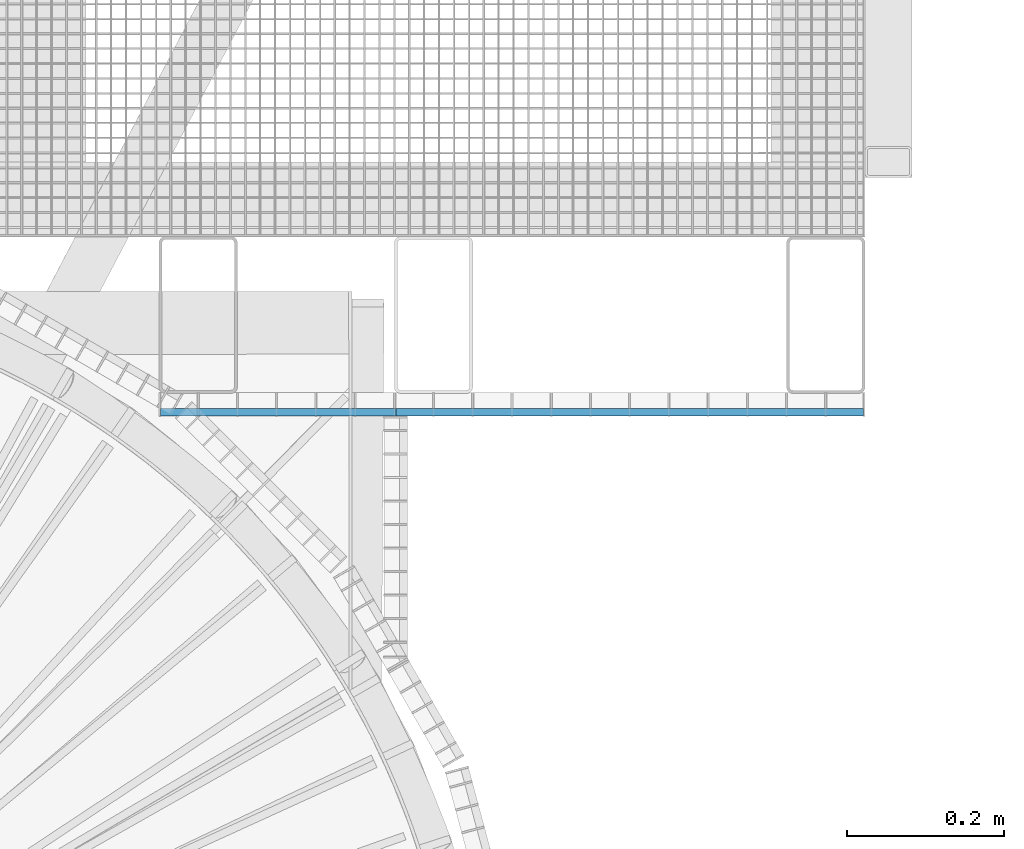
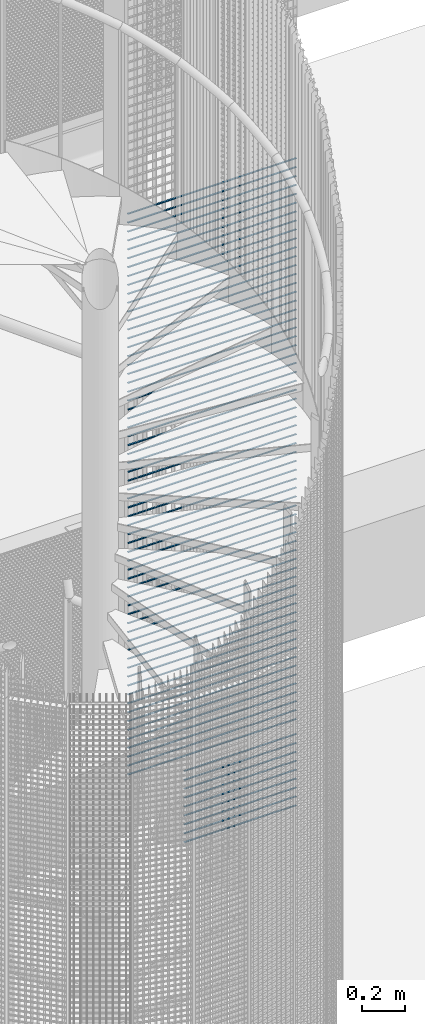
# One storey, part 293 of 1148: 73 beams, 2 elements without a shape of their own.
"""IFC2X3 building model written with IfcOpenShell, lengths in millimetres."""

from ifc_helpers import new_model, si_unit, frame, origin_with_axes, origin_2d_with_axis, place, context, subcontext, project, spatial, rectangle, extrude, material, type_object, element, aggregate, save


model = new_model("IFC2X3")

# Units and contexts
model_context = context("Model", 3, precision=1e-05, world=origin_with_axes())
body_context = subcontext(model_context, "Body", "Model", "MODEL_VIEW")
ifc_project = project(units=[si_unit("LENGTHUNIT", "METRE", prefix="MILLI"), si_unit("AREAUNIT", "SQUARE_METRE"), si_unit("VOLUMEUNIT", "CUBIC_METRE"), si_unit("MASSUNIT", "GRAM", prefix="KILO"), si_unit("TIMEUNIT", "SECOND"), si_unit("PLANEANGLEUNIT", "RADIAN"), si_unit("SOLIDANGLEUNIT", "STERADIAN"), si_unit("THERMODYNAMICTEMPERATUREUNIT", "DEGREE_CELSIUS"), si_unit("LUMINOUSINTENSITYUNIT", "LUMEN")], contexts=[model_context])

# Site, building, storey
site_placement = place(None, origin_with_axes())
site = spatial("IfcSite", under=ifc_project, at=site_placement, Name="Undefined", CompositionType="ELEMENT")
building_placement = place(site_placement, origin_with_axes())
building = spatial("IfcBuilding", under=site, at=building_placement, Name="Undefined", CompositionType="ELEMENT")
storey_placement = place(building_placement, origin_with_axes())
storey = spatial("IfcBuildingStorey", under=building, at=storey_placement, Name="Undefined", CompositionType="ELEMENT", Elevation=0.0)

# Assembly, beams
assembly_1_placement = place(storey_placement, origin_with_axes())
assembly_1 = element("IfcElementAssembly", 1, at=assembly_1_placement, inside=storey, Name="BORDURE", AssemblyPlace="NOTDEFINED", PredefinedType="NOTDEFINED")
ifc_material = material(Name="STEEL/S235JR")
beam_type = type_object("IfcBeamType", Name="PL2*10", PredefinedType="NOTDEFINED")
beam_1_placement = place(assembly_1_placement, frame((652.069589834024, 876.014689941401, 13239.998), z_axis=(0.0, -1.0, 0.0), x_axis=(1.0, 0.0, 0.0)))
beam_1 = element("IfcBeam", 2, at=beam_1_placement, type_object=beam_type, material=ifc_material, Name="ENTRETOISE", context=body_context, shape_type="SweptSolid", body=[
    extrude(rectangle(XDim=2.0, YDim=10.0, at=origin_2d_with_axis()), frame((896.0, 0.0, 0.0), z_axis=(-1.0, 0.0, 0.0), x_axis=(0.0, -1.0, 0.0)), (0.0, 0.0, 1.0), 896.0),
])
beam_2_placement = place(assembly_1_placement, frame((652.069589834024, 876.014689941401, 13189.998), z_axis=(0.0, -1.0, 0.0), x_axis=(1.0, 0.0, 0.0)))
beam_2 = element("IfcBeam", 3, at=beam_2_placement, type_object=beam_type, material=ifc_material, Name="ENTRETOISE", context=body_context, shape_type="SweptSolid", body=[
    extrude(rectangle(XDim=2.0, YDim=10.0, at=origin_2d_with_axis()), frame((896.0, 0.0, 0.0), z_axis=(-1.0, 0.0, 0.0), x_axis=(0.0, -1.0, 0.0)), (0.0, 0.0, 1.0), 896.0),
])
beam_3_placement = place(assembly_1_placement, frame((652.069589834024, 876.014689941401, 13139.998), z_axis=(0.0, -1.0, 0.0), x_axis=(1.0, 0.0, 0.0)))
beam_3 = element("IfcBeam", 4, at=beam_3_placement, type_object=beam_type, material=ifc_material, Name="ENTRETOISE", context=body_context, shape_type="SweptSolid", body=[
    extrude(rectangle(XDim=2.0, YDim=10.0, at=origin_2d_with_axis()), frame((896.0, 0.0, 0.0), z_axis=(-1.0, 0.0, 0.0), x_axis=(0.0, -1.0, 0.0)), (0.0, 0.0, 1.0), 896.0),
])
beam_4_placement = place(assembly_1_placement, frame((652.069589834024, 876.014689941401, 13089.998), z_axis=(0.0, -1.0, 0.0), x_axis=(1.0, 0.0, 0.0)))
beam_4 = element("IfcBeam", 5, at=beam_4_placement, type_object=beam_type, material=ifc_material, Name="ENTRETOISE", context=body_context, shape_type="SweptSolid", body=[
    extrude(rectangle(XDim=2.0, YDim=10.0, at=origin_2d_with_axis()), frame((896.0, 0.0, 0.0), z_axis=(-1.0, 0.0, 0.0), x_axis=(0.0, -1.0, 0.0)), (0.0, 0.0, 1.0), 896.0),
])
beam_5_placement = place(assembly_1_placement, frame((652.069589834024, 876.014689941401, 13039.998), z_axis=(0.0, -1.0, 0.0), x_axis=(1.0, 0.0, 0.0)))
beam_5 = element("IfcBeam", 6, at=beam_5_placement, type_object=beam_type, material=ifc_material, Name="ENTRETOISE", context=body_context, shape_type="SweptSolid", body=[
    extrude(rectangle(XDim=2.0, YDim=10.0, at=origin_2d_with_axis()), frame((896.0, 0.0, 0.0), z_axis=(-1.0, 0.0, 0.0), x_axis=(0.0, -1.0, 0.0)), (0.0, 0.0, 1.0), 896.0),
])
beam_6_placement = place(assembly_1_placement, frame((652.069589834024, 876.014689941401, 12989.998), z_axis=(0.0, -1.0, 0.0), x_axis=(1.0, 0.0, 0.0)))
beam_6 = element("IfcBeam", 7, at=beam_6_placement, type_object=beam_type, material=ifc_material, Name="ENTRETOISE", context=body_context, shape_type="SweptSolid", body=[
    extrude(rectangle(XDim=2.0, YDim=10.0, at=origin_2d_with_axis()), frame((896.0, 0.0, 0.0), z_axis=(-1.0, 0.0, 0.0), x_axis=(0.0, -1.0, 0.0)), (0.0, 0.0, 1.0), 896.0),
])
beam_7_placement = place(assembly_1_placement, frame((652.069589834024, 876.014689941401, 12939.998), z_axis=(0.0, -1.0, 0.0), x_axis=(1.0, 0.0, 0.0)))
beam_7 = element("IfcBeam", 8, at=beam_7_placement, type_object=beam_type, material=ifc_material, Name="ENTRETOISE", context=body_context, shape_type="SweptSolid", body=[
    extrude(rectangle(XDim=2.0, YDim=10.0, at=origin_2d_with_axis()), frame((896.0, 0.0, 0.0), z_axis=(-1.0, 0.0, 0.0), x_axis=(0.0, -1.0, 0.0)), (0.0, 0.0, 1.0), 896.0),
])
beam_8_placement = place(assembly_1_placement, frame((652.069589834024, 876.014689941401, 12889.998), z_axis=(0.0, -1.0, 0.0), x_axis=(1.0, 0.0, 0.0)))
beam_8 = element("IfcBeam", 9, at=beam_8_placement, type_object=beam_type, material=ifc_material, Name="ENTRETOISE", context=body_context, shape_type="SweptSolid", body=[
    extrude(rectangle(XDim=2.0, YDim=10.0, at=origin_2d_with_axis()), frame((896.0, 0.0, 0.0), z_axis=(-1.0, 0.0, 0.0), x_axis=(0.0, -1.0, 0.0)), (0.0, 0.0, 1.0), 896.0),
])
beam_9_placement = place(assembly_1_placement, frame((652.069589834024, 876.014689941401, 12839.998), z_axis=(0.0, -1.0, 0.0), x_axis=(1.0, 0.0, 0.0)))
beam_9 = element("IfcBeam", 10, at=beam_9_placement, type_object=beam_type, material=ifc_material, Name="ENTRETOISE", context=body_context, shape_type="SweptSolid", body=[
    extrude(rectangle(XDim=2.0, YDim=10.0, at=origin_2d_with_axis()), frame((896.0, 0.0, 0.0), z_axis=(-1.0, 0.0, 0.0), x_axis=(0.0, -1.0, 0.0)), (0.0, 0.0, 1.0), 896.0),
])
beam_10_placement = place(assembly_1_placement, frame((652.069589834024, 876.014689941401, 12789.998), z_axis=(0.0, -1.0, 0.0), x_axis=(1.0, 0.0, 0.0)))
beam_10 = element("IfcBeam", 11, at=beam_10_placement, type_object=beam_type, material=ifc_material, Name="ENTRETOISE", context=body_context, shape_type="SweptSolid", body=[
    extrude(rectangle(XDim=2.0, YDim=10.0, at=origin_2d_with_axis()), frame((896.0, 0.0, 0.0), z_axis=(-1.0, 0.0, 0.0), x_axis=(0.0, -1.0, 0.0)), (0.0, 0.0, 1.0), 896.0),
])
beam_11_placement = place(assembly_1_placement, frame((652.069589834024, 876.014689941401, 12739.998), z_axis=(0.0, -1.0, 0.0), x_axis=(1.0, 0.0, 0.0)))
beam_11 = element("IfcBeam", 12, at=beam_11_placement, type_object=beam_type, material=ifc_material, Name="ENTRETOISE", context=body_context, shape_type="SweptSolid", body=[
    extrude(rectangle(XDim=2.0, YDim=10.0, at=origin_2d_with_axis()), frame((896.0, 0.0, 0.0), z_axis=(-1.0, 0.0, 0.0), x_axis=(0.0, -1.0, 0.0)), (0.0, 0.0, 1.0), 896.0),
])
beam_12_placement = place(assembly_1_placement, frame((652.069589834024, 876.014689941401, 12689.998), z_axis=(0.0, -1.0, 0.0), x_axis=(1.0, 0.0, 0.0)))
beam_12 = element("IfcBeam", 13, at=beam_12_placement, type_object=beam_type, material=ifc_material, Name="ENTRETOISE", context=body_context, shape_type="SweptSolid", body=[
    extrude(rectangle(XDim=2.0, YDim=10.0, at=origin_2d_with_axis()), frame((896.0, 0.0, 0.0), z_axis=(-1.0, 0.0, 0.0), x_axis=(0.0, -1.0, 0.0)), (0.0, 0.0, 1.0), 896.0),
])
beam_13_placement = place(assembly_1_placement, frame((652.069589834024, 876.014689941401, 12639.998), z_axis=(0.0, -1.0, 0.0), x_axis=(1.0, 0.0, 0.0)))
beam_13 = element("IfcBeam", 14, at=beam_13_placement, type_object=beam_type, material=ifc_material, Name="ENTRETOISE", context=body_context, shape_type="SweptSolid", body=[
    extrude(rectangle(XDim=2.0, YDim=10.0, at=origin_2d_with_axis()), frame((896.0, 0.0, 0.0), z_axis=(-1.0, 0.0, 0.0), x_axis=(0.0, -1.0, 0.0)), (0.0, 0.0, 1.0), 896.0),
])
beam_14_placement = place(assembly_1_placement, frame((652.069589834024, 876.014689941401, 12589.998), z_axis=(0.0, -1.0, 0.0), x_axis=(1.0, 0.0, 0.0)))
beam_14 = element("IfcBeam", 15, at=beam_14_placement, type_object=beam_type, material=ifc_material, Name="ENTRETOISE", context=body_context, shape_type="SweptSolid", body=[
    extrude(rectangle(XDim=2.0, YDim=10.0, at=origin_2d_with_axis()), frame((896.0, 0.0, 0.0), z_axis=(-1.0, 0.0, 0.0), x_axis=(0.0, -1.0, 0.0)), (0.0, 0.0, 1.0), 896.0),
])
beam_15_placement = place(assembly_1_placement, frame((652.069589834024, 876.014689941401, 12539.998), z_axis=(0.0, -1.0, 0.0), x_axis=(1.0, 0.0, 0.0)))
beam_15 = element("IfcBeam", 16, at=beam_15_placement, type_object=beam_type, material=ifc_material, Name="ENTRETOISE", context=body_context, shape_type="SweptSolid", body=[
    extrude(rectangle(XDim=2.0, YDim=10.0, at=origin_2d_with_axis()), frame((896.0, 0.0, 0.0), z_axis=(-1.0, 0.0, 0.0), x_axis=(0.0, -1.0, 0.0)), (0.0, 0.0, 1.0), 896.0),
])
beam_16_placement = place(assembly_1_placement, frame((652.069589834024, 876.014689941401, 12489.998), z_axis=(0.0, -1.0, 0.0), x_axis=(1.0, 0.0, 0.0)))
beam_16 = element("IfcBeam", 17, at=beam_16_placement, type_object=beam_type, material=ifc_material, Name="ENTRETOISE", context=body_context, shape_type="SweptSolid", body=[
    extrude(rectangle(XDim=2.0, YDim=10.0, at=origin_2d_with_axis()), frame((896.0, 0.0, 0.0), z_axis=(-1.0, 0.0, 0.0), x_axis=(0.0, -1.0, 0.0)), (0.0, 0.0, 1.0), 896.0),
])
beam_17_placement = place(assembly_1_placement, frame((652.069589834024, 876.014689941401, 12439.998), z_axis=(0.0, -1.0, 0.0), x_axis=(1.0, 0.0, 0.0)))
beam_17 = element("IfcBeam", 18, at=beam_17_placement, type_object=beam_type, material=ifc_material, Name="ENTRETOISE", context=body_context, shape_type="SweptSolid", body=[
    extrude(rectangle(XDim=2.0, YDim=10.0, at=origin_2d_with_axis()), frame((896.0, 0.0, 0.0), z_axis=(-1.0, 0.0, 0.0), x_axis=(0.0, -1.0, 0.0)), (0.0, 0.0, 1.0), 896.0),
])
beam_18_placement = place(assembly_1_placement, frame((652.069589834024, 876.014689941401, 12389.998), z_axis=(0.0, -1.0, 0.0), x_axis=(1.0, 0.0, 0.0)))
beam_18 = element("IfcBeam", 19, at=beam_18_placement, type_object=beam_type, material=ifc_material, Name="ENTRETOISE", context=body_context, shape_type="SweptSolid", body=[
    extrude(rectangle(XDim=2.0, YDim=10.0, at=origin_2d_with_axis()), frame((896.0, 0.0, 0.0), z_axis=(-1.0, 0.0, 0.0), x_axis=(0.0, -1.0, 0.0)), (0.0, 0.0, 1.0), 896.0),
])
beam_19_placement = place(assembly_1_placement, frame((652.069589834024, 876.014689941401, 12339.998), z_axis=(0.0, -1.0, 0.0), x_axis=(1.0, 0.0, 0.0)))
beam_19 = element("IfcBeam", 20, at=beam_19_placement, type_object=beam_type, material=ifc_material, Name="ENTRETOISE", context=body_context, shape_type="SweptSolid", body=[
    extrude(rectangle(XDim=2.0, YDim=10.0, at=origin_2d_with_axis()), frame((896.0, 0.0, 0.0), z_axis=(-1.0, 0.0, 0.0), x_axis=(0.0, -1.0, 0.0)), (0.0, 0.0, 1.0), 896.0),
])
beam_20_placement = place(assembly_1_placement, frame((652.069589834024, 876.014689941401, 12289.998), z_axis=(0.0, -1.0, 0.0), x_axis=(1.0, 0.0, 0.0)))
beam_20 = element("IfcBeam", 21, at=beam_20_placement, type_object=beam_type, material=ifc_material, Name="ENTRETOISE", context=body_context, shape_type="SweptSolid", body=[
    extrude(rectangle(XDim=2.0, YDim=10.0, at=origin_2d_with_axis()), frame((896.0, 0.0, 0.0), z_axis=(-1.0, 0.0, 0.0), x_axis=(0.0, -1.0, 0.0)), (0.0, 0.0, 1.0), 896.0),
])
beam_21_placement = place(assembly_1_placement, frame((652.069589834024, 876.014689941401, 12239.998), z_axis=(0.0, -1.0, 0.0), x_axis=(1.0, 0.0, 0.0)))
beam_21 = element("IfcBeam", 22, at=beam_21_placement, type_object=beam_type, material=ifc_material, Name="ENTRETOISE", context=body_context, shape_type="SweptSolid", body=[
    extrude(rectangle(XDim=2.0, YDim=10.0, at=origin_2d_with_axis()), frame((896.0, 0.0, 0.0), z_axis=(-1.0, 0.0, 0.0), x_axis=(0.0, -1.0, 0.0)), (0.0, 0.0, 1.0), 896.0),
])
beam_22_placement = place(assembly_1_placement, frame((652.069589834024, 876.014689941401, 12189.998), z_axis=(0.0, -1.0, 0.0), x_axis=(1.0, 0.0, 0.0)))
beam_22 = element("IfcBeam", 23, at=beam_22_placement, type_object=beam_type, material=ifc_material, Name="ENTRETOISE", context=body_context, shape_type="SweptSolid", body=[
    extrude(rectangle(XDim=2.0, YDim=10.0, at=origin_2d_with_axis()), frame((896.0, 0.0, 0.0), z_axis=(-1.0, 0.0, 0.0), x_axis=(0.0, -1.0, 0.0)), (0.0, 0.0, 1.0), 896.0),
])
beam_23_placement = place(assembly_1_placement, frame((652.069589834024, 876.014689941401, 12139.998), z_axis=(0.0, -1.0, 0.0), x_axis=(1.0, 0.0, 0.0)))
beam_23 = element("IfcBeam", 24, at=beam_23_placement, type_object=beam_type, material=ifc_material, Name="ENTRETOISE", context=body_context, shape_type="SweptSolid", body=[
    extrude(rectangle(XDim=2.0, YDim=10.0, at=origin_2d_with_axis()), frame((896.0, 0.0, 0.0), z_axis=(-1.0, 0.0, 0.0), x_axis=(0.0, -1.0, 0.0)), (0.0, 0.0, 1.0), 896.0),
])
beam_24_placement = place(assembly_1_placement, frame((652.069589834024, 876.014689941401, 12089.998), z_axis=(0.0, -1.0, 0.0), x_axis=(1.0, 0.0, 0.0)))
beam_24 = element("IfcBeam", 25, at=beam_24_placement, type_object=beam_type, material=ifc_material, Name="ENTRETOISE", context=body_context, shape_type="SweptSolid", body=[
    extrude(rectangle(XDim=2.0, YDim=10.0, at=origin_2d_with_axis()), frame((896.0, 0.0, 0.0), z_axis=(-1.0, 0.0, 0.0), x_axis=(0.0, -1.0, 0.0)), (0.0, 0.0, 1.0), 896.0),
])
beam_25_placement = place(assembly_1_placement, frame((652.069589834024, 876.014689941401, 12039.998), z_axis=(0.0, -1.0, 0.0), x_axis=(1.0, 0.0, 0.0)))
beam_25 = element("IfcBeam", 26, at=beam_25_placement, type_object=beam_type, material=ifc_material, Name="ENTRETOISE", context=body_context, shape_type="SweptSolid", body=[
    extrude(rectangle(XDim=2.0, YDim=10.0, at=origin_2d_with_axis()), frame((896.0, 0.0, 0.0), z_axis=(-1.0, 0.0, 0.0), x_axis=(0.0, -1.0, 0.0)), (0.0, 0.0, 1.0), 896.0),
])
beam_26_placement = place(assembly_1_placement, frame((652.069589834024, 876.014689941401, 11989.998), z_axis=(0.0, -1.0, 0.0), x_axis=(1.0, 0.0, 0.0)))
beam_26 = element("IfcBeam", 27, at=beam_26_placement, type_object=beam_type, material=ifc_material, Name="ENTRETOISE", context=body_context, shape_type="SweptSolid", body=[
    extrude(rectangle(XDim=2.0, YDim=10.0, at=origin_2d_with_axis()), frame((896.0, 0.0, 0.0), z_axis=(-1.0, 0.0, 0.0), x_axis=(0.0, -1.0, 0.0)), (0.0, 0.0, 1.0), 896.0),
])
beam_27_placement = place(assembly_1_placement, frame((652.069589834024, 876.014689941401, 11939.998), z_axis=(0.0, -1.0, 0.0), x_axis=(1.0, 0.0, 0.0)))
beam_27 = element("IfcBeam", 28, at=beam_27_placement, type_object=beam_type, material=ifc_material, Name="ENTRETOISE", context=body_context, shape_type="SweptSolid", body=[
    extrude(rectangle(XDim=2.0, YDim=10.0, at=origin_2d_with_axis()), frame((896.0, 0.0, 0.0), z_axis=(-1.0, 0.0, 0.0), x_axis=(0.0, -1.0, 0.0)), (0.0, 0.0, 1.0), 896.0),
])
beam_28_placement = place(assembly_1_placement, frame((652.069589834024, 876.014689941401, 10789.998), z_axis=(0.0, -1.0, 0.0), x_axis=(1.0, 0.0, 0.0)))
beam_28 = element("IfcBeam", 29, at=beam_28_placement, type_object=beam_type, material=ifc_material, Name="ENTRETOISE", context=body_context, shape_type="SweptSolid", body=[
    extrude(rectangle(XDim=2.0, YDim=10.0, at=origin_2d_with_axis()), frame((896.0, 0.0, 0.0), z_axis=(-1.0, 0.0, 0.0), x_axis=(0.0, -1.0, 0.0)), (0.0, 0.0, 1.0), 896.0),
])
beam_29_placement = place(assembly_1_placement, frame((652.069589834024, 876.014689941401, 10839.998), z_axis=(0.0, -1.0, 0.0), x_axis=(1.0, 0.0, 0.0)))
beam_29 = element("IfcBeam", 30, at=beam_29_placement, type_object=beam_type, material=ifc_material, Name="ENTRETOISE", context=body_context, shape_type="SweptSolid", body=[
    extrude(rectangle(XDim=2.0, YDim=10.0, at=origin_2d_with_axis()), frame((896.0, 0.0, 0.0), z_axis=(-1.0, 0.0, 0.0), x_axis=(0.0, -1.0, 0.0)), (0.0, 0.0, 1.0), 896.0),
])
beam_30_placement = place(assembly_1_placement, frame((652.069589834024, 876.014689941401, 10739.998), z_axis=(0.0, -1.0, 0.0), x_axis=(1.0, 0.0, 0.0)))
beam_30 = element("IfcBeam", 31, at=beam_30_placement, type_object=beam_type, material=ifc_material, Name="ENTRETOISE", context=body_context, shape_type="SweptSolid", body=[
    extrude(rectangle(XDim=2.0, YDim=10.0, at=origin_2d_with_axis()), frame((896.0, 0.0, 0.0), z_axis=(-1.0, 0.0, 0.0), x_axis=(0.0, -1.0, 0.0)), (0.0, 0.0, 1.0), 896.0),
])
beam_31_placement = place(assembly_1_placement, frame((652.069589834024, 876.014689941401, 10889.998), z_axis=(0.0, -1.0, 0.0), x_axis=(1.0, 0.0, 0.0)))
beam_31 = element("IfcBeam", 32, at=beam_31_placement, type_object=beam_type, material=ifc_material, Name="ENTRETOISE", context=body_context, shape_type="SweptSolid", body=[
    extrude(rectangle(XDim=2.0, YDim=10.0, at=origin_2d_with_axis()), frame((896.0, 0.0, 0.0), z_axis=(-1.0, 0.0, 0.0), x_axis=(0.0, -1.0, 0.0)), (0.0, 0.0, 1.0), 896.0),
])
beam_32_placement = place(assembly_1_placement, frame((652.069589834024, 876.014689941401, 10689.998), z_axis=(0.0, -1.0, 0.0), x_axis=(1.0, 0.0, 0.0)))
beam_32 = element("IfcBeam", 33, at=beam_32_placement, type_object=beam_type, material=ifc_material, Name="ENTRETOISE", context=body_context, shape_type="SweptSolid", body=[
    extrude(rectangle(XDim=2.0, YDim=10.0, at=origin_2d_with_axis()), frame((896.0, 0.0, 0.0), z_axis=(-1.0, 0.0, 0.0), x_axis=(0.0, -1.0, 0.0)), (0.0, 0.0, 1.0), 896.0),
])
beam_33_placement = place(assembly_1_placement, frame((652.069589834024, 876.014689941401, 10939.998), z_axis=(0.0, -1.0, 0.0), x_axis=(1.0, 0.0, 0.0)))
beam_33 = element("IfcBeam", 34, at=beam_33_placement, type_object=beam_type, material=ifc_material, Name="ENTRETOISE", context=body_context, shape_type="SweptSolid", body=[
    extrude(rectangle(XDim=2.0, YDim=10.0, at=origin_2d_with_axis()), frame((896.0, 0.0, 0.0), z_axis=(-1.0, 0.0, 0.0), x_axis=(0.0, -1.0, 0.0)), (0.0, 0.0, 1.0), 896.0),
])
beam_34_placement = place(assembly_1_placement, frame((652.069589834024, 876.014689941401, 10989.998), z_axis=(0.0, -1.0, 0.0), x_axis=(1.0, 0.0, 0.0)))
beam_34 = element("IfcBeam", 35, at=beam_34_placement, type_object=beam_type, material=ifc_material, Name="ENTRETOISE", context=body_context, shape_type="SweptSolid", body=[
    extrude(rectangle(XDim=2.0, YDim=10.0, at=origin_2d_with_axis()), frame((896.0, 0.0, 0.0), z_axis=(-1.0, 0.0, 0.0), x_axis=(0.0, -1.0, 0.0)), (0.0, 0.0, 1.0), 896.0),
])
beam_35_placement = place(assembly_1_placement, frame((652.069589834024, 876.014689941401, 10639.998), z_axis=(0.0, -1.0, 0.0), x_axis=(1.0, 0.0, 0.0)))
beam_35 = element("IfcBeam", 36, at=beam_35_placement, type_object=beam_type, material=ifc_material, Name="ENTRETOISE", context=body_context, shape_type="SweptSolid", body=[
    extrude(rectangle(XDim=2.0, YDim=10.0, at=origin_2d_with_axis()), frame((896.0, 0.0, 0.0), z_axis=(-1.0, 0.0, 0.0), x_axis=(0.0, -1.0, 0.0)), (0.0, 0.0, 1.0), 896.0),
])
beam_36_placement = place(assembly_1_placement, frame((652.069589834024, 876.014689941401, 11039.998), z_axis=(0.0, -1.0, 0.0), x_axis=(1.0, 0.0, 0.0)))
beam_36 = element("IfcBeam", 37, at=beam_36_placement, type_object=beam_type, material=ifc_material, Name="ENTRETOISE", context=body_context, shape_type="SweptSolid", body=[
    extrude(rectangle(XDim=2.0, YDim=10.0, at=origin_2d_with_axis()), frame((896.0, 0.0, 0.0), z_axis=(-1.0, 0.0, 0.0), x_axis=(0.0, -1.0, 0.0)), (0.0, 0.0, 1.0), 896.0),
])
beam_37_placement = place(assembly_1_placement, frame((652.069589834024, 876.014689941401, 11089.998), z_axis=(0.0, -1.0, 0.0), x_axis=(1.0, 0.0, 0.0)))
beam_37 = element("IfcBeam", 38, at=beam_37_placement, type_object=beam_type, material=ifc_material, Name="ENTRETOISE", context=body_context, shape_type="SweptSolid", body=[
    extrude(rectangle(XDim=2.0, YDim=10.0, at=origin_2d_with_axis()), frame((896.0, 0.0, 0.0), z_axis=(-1.0, 0.0, 0.0), x_axis=(0.0, -1.0, 0.0)), (0.0, 0.0, 1.0), 896.0),
])
beam_38_placement = place(assembly_1_placement, frame((652.069589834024, 876.014689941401, 10589.998), z_axis=(0.0, -1.0, 0.0), x_axis=(1.0, 0.0, 0.0)))
beam_38 = element("IfcBeam", 39, at=beam_38_placement, type_object=beam_type, material=ifc_material, Name="ENTRETOISE", context=body_context, shape_type="SweptSolid", body=[
    extrude(rectangle(XDim=2.0, YDim=10.0, at=origin_2d_with_axis()), frame((896.0, 0.0, 0.0), z_axis=(-1.0, 0.0, 0.0), x_axis=(0.0, -1.0, 0.0)), (0.0, 0.0, 1.0), 896.0),
])
beam_39_placement = place(assembly_1_placement, frame((652.069589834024, 876.014689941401, 11139.998), z_axis=(0.0, -1.0, 0.0), x_axis=(1.0, 0.0, 0.0)))
beam_39 = element("IfcBeam", 40, at=beam_39_placement, type_object=beam_type, material=ifc_material, Name="ENTRETOISE", context=body_context, shape_type="SweptSolid", body=[
    extrude(rectangle(XDim=2.0, YDim=10.0, at=origin_2d_with_axis()), frame((896.0, 0.0, 0.0), z_axis=(-1.0, 0.0, 0.0), x_axis=(0.0, -1.0, 0.0)), (0.0, 0.0, 1.0), 896.0),
])
beam_40_placement = place(assembly_1_placement, frame((652.069589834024, 876.014689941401, 10539.998), z_axis=(0.0, -1.0, 0.0), x_axis=(1.0, 0.0, 0.0)))
beam_40 = element("IfcBeam", 41, at=beam_40_placement, type_object=beam_type, material=ifc_material, Name="ENTRETOISE", context=body_context, shape_type="SweptSolid", body=[
    extrude(rectangle(XDim=2.0, YDim=10.0, at=origin_2d_with_axis()), frame((896.0, 0.0, 0.0), z_axis=(-1.0, 0.0, 0.0), x_axis=(0.0, -1.0, 0.0)), (0.0, 0.0, 1.0), 896.0),
])
beam_41_placement = place(assembly_1_placement, frame((652.069589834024, 876.014689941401, 11189.998), z_axis=(0.0, -1.0, 0.0), x_axis=(1.0, 0.0, 0.0)))
beam_41 = element("IfcBeam", 42, at=beam_41_placement, type_object=beam_type, material=ifc_material, Name="ENTRETOISE", context=body_context, shape_type="SweptSolid", body=[
    extrude(rectangle(XDim=2.0, YDim=10.0, at=origin_2d_with_axis()), frame((896.0, 0.0, 0.0), z_axis=(-1.0, 0.0, 0.0), x_axis=(0.0, -1.0, 0.0)), (0.0, 0.0, 1.0), 896.0),
])
beam_42_placement = place(assembly_1_placement, frame((652.069589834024, 876.014689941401, 11239.998), z_axis=(0.0, -1.0, 0.0), x_axis=(1.0, 0.0, 0.0)))
beam_42 = element("IfcBeam", 43, at=beam_42_placement, type_object=beam_type, material=ifc_material, Name="ENTRETOISE", context=body_context, shape_type="SweptSolid", body=[
    extrude(rectangle(XDim=2.0, YDim=10.0, at=origin_2d_with_axis()), frame((896.0, 0.0, 0.0), z_axis=(-1.0, 0.0, 0.0), x_axis=(0.0, -1.0, 0.0)), (0.0, 0.0, 1.0), 896.0),
])
beam_43_placement = place(assembly_1_placement, frame((652.069589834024, 876.014689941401, 10489.998), z_axis=(0.0, -1.0, 0.0), x_axis=(1.0, 0.0, 0.0)))
beam_43 = element("IfcBeam", 44, at=beam_43_placement, type_object=beam_type, material=ifc_material, Name="ENTRETOISE", context=body_context, shape_type="SweptSolid", body=[
    extrude(rectangle(XDim=2.0, YDim=10.0, at=origin_2d_with_axis()), frame((896.0, 0.0, 0.0), z_axis=(-1.0, 0.0, 0.0), x_axis=(0.0, -1.0, 0.0)), (0.0, 0.0, 1.0), 896.0),
])
beam_44_placement = place(assembly_1_placement, frame((652.069589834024, 876.014689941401, 11289.998), z_axis=(0.0, -1.0, 0.0), x_axis=(1.0, 0.0, 0.0)))
beam_44 = element("IfcBeam", 45, at=beam_44_placement, type_object=beam_type, material=ifc_material, Name="ENTRETOISE", context=body_context, shape_type="SweptSolid", body=[
    extrude(rectangle(XDim=2.0, YDim=10.0, at=origin_2d_with_axis()), frame((896.0, 0.0, 0.0), z_axis=(-1.0, 0.0, 0.0), x_axis=(0.0, -1.0, 0.0)), (0.0, 0.0, 1.0), 896.0),
])
beam_45_placement = place(assembly_1_placement, frame((652.069589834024, 876.014689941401, 11339.998), z_axis=(0.0, -1.0, 0.0), x_axis=(1.0, 0.0, 0.0)))
beam_45 = element("IfcBeam", 46, at=beam_45_placement, type_object=beam_type, material=ifc_material, Name="ENTRETOISE", context=body_context, shape_type="SweptSolid", body=[
    extrude(rectangle(XDim=2.0, YDim=10.0, at=origin_2d_with_axis()), frame((896.0, 0.0, 0.0), z_axis=(-1.0, 0.0, 0.0), x_axis=(0.0, -1.0, 0.0)), (0.0, 0.0, 1.0), 896.0),
])
beam_46_placement = place(assembly_1_placement, frame((652.069589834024, 876.014689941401, 10439.998), z_axis=(0.0, -1.0, 0.0), x_axis=(1.0, 0.0, 0.0)))
beam_46 = element("IfcBeam", 47, at=beam_46_placement, type_object=beam_type, material=ifc_material, Name="ENTRETOISE", context=body_context, shape_type="SweptSolid", body=[
    extrude(rectangle(XDim=2.0, YDim=10.0, at=origin_2d_with_axis()), frame((896.0, 0.0, 0.0), z_axis=(-1.0, 0.0, 0.0), x_axis=(0.0, -1.0, 0.0)), (0.0, 0.0, 1.0), 896.0),
])
beam_47_placement = place(assembly_1_placement, frame((652.069589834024, 876.014689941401, 11389.998), z_axis=(0.0, -1.0, 0.0), x_axis=(1.0, 0.0, 0.0)))
beam_47 = element("IfcBeam", 48, at=beam_47_placement, type_object=beam_type, material=ifc_material, Name="ENTRETOISE", context=body_context, shape_type="SweptSolid", body=[
    extrude(rectangle(XDim=2.0, YDim=10.0, at=origin_2d_with_axis()), frame((896.0, 0.0, 0.0), z_axis=(-1.0, 0.0, 0.0), x_axis=(0.0, -1.0, 0.0)), (0.0, 0.0, 1.0), 896.0),
])
beam_48_placement = place(assembly_1_placement, frame((652.069589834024, 876.014689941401, 10389.998), z_axis=(0.0, -1.0, 0.0), x_axis=(1.0, 0.0, 0.0)))
beam_48 = element("IfcBeam", 49, at=beam_48_placement, type_object=beam_type, material=ifc_material, Name="ENTRETOISE", context=body_context, shape_type="SweptSolid", body=[
    extrude(rectangle(XDim=2.0, YDim=10.0, at=origin_2d_with_axis()), frame((896.0, 0.0, 0.0), z_axis=(-1.0, 0.0, 0.0), x_axis=(0.0, -1.0, 0.0)), (0.0, 0.0, 1.0), 896.0),
])
beam_49_placement = place(assembly_1_placement, frame((652.069589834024, 876.014689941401, 11439.998), z_axis=(0.0, -1.0, 0.0), x_axis=(1.0, 0.0, 0.0)))
beam_49 = element("IfcBeam", 50, at=beam_49_placement, type_object=beam_type, material=ifc_material, Name="ENTRETOISE", context=body_context, shape_type="SweptSolid", body=[
    extrude(rectangle(XDim=2.0, YDim=10.0, at=origin_2d_with_axis()), frame((896.0, 0.0, 0.0), z_axis=(-1.0, 0.0, 0.0), x_axis=(0.0, -1.0, 0.0)), (0.0, 0.0, 1.0), 896.0),
])
beam_50_placement = place(assembly_1_placement, frame((652.069589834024, 876.014689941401, 11489.998), z_axis=(0.0, -1.0, 0.0), x_axis=(1.0, 0.0, 0.0)))
beam_50 = element("IfcBeam", 51, at=beam_50_placement, type_object=beam_type, material=ifc_material, Name="ENTRETOISE", context=body_context, shape_type="SweptSolid", body=[
    extrude(rectangle(XDim=2.0, YDim=10.0, at=origin_2d_with_axis()), frame((896.0, 0.0, 0.0), z_axis=(-1.0, 0.0, 0.0), x_axis=(0.0, -1.0, 0.0)), (0.0, 0.0, 1.0), 896.0),
])
beam_51_placement = place(assembly_1_placement, frame((652.069589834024, 876.014689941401, 10339.998), z_axis=(0.0, -1.0, 0.0), x_axis=(1.0, 0.0, 0.0)))
beam_51 = element("IfcBeam", 52, at=beam_51_placement, type_object=beam_type, material=ifc_material, Name="ENTRETOISE", context=body_context, shape_type="SweptSolid", body=[
    extrude(rectangle(XDim=2.0, YDim=10.0, at=origin_2d_with_axis()), frame((896.0, 0.0, 0.0), z_axis=(-1.0, 0.0, 0.0), x_axis=(0.0, -1.0, 0.0)), (0.0, 0.0, 1.0), 896.0),
])
beam_52_placement = place(assembly_1_placement, frame((652.069589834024, 876.014689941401, 11539.998), z_axis=(0.0, -1.0, 0.0), x_axis=(1.0, 0.0, 0.0)))
beam_52 = element("IfcBeam", 53, at=beam_52_placement, type_object=beam_type, material=ifc_material, Name="ENTRETOISE", context=body_context, shape_type="SweptSolid", body=[
    extrude(rectangle(XDim=2.0, YDim=10.0, at=origin_2d_with_axis()), frame((896.0, 0.0, 0.0), z_axis=(-1.0, 0.0, 0.0), x_axis=(0.0, -1.0, 0.0)), (0.0, 0.0, 1.0), 896.0),
])
beam_53_placement = place(assembly_1_placement, frame((652.069589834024, 876.014689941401, 10289.998), z_axis=(0.0, -1.0, 0.0), x_axis=(1.0, 0.0, 0.0)))
beam_53 = element("IfcBeam", 54, at=beam_53_placement, type_object=beam_type, material=ifc_material, Name="ENTRETOISE", context=body_context, shape_type="SweptSolid", body=[
    extrude(rectangle(XDim=2.0, YDim=10.0, at=origin_2d_with_axis()), frame((896.0, 0.0, 0.0), z_axis=(-1.0, 0.0, 0.0), x_axis=(0.0, -1.0, 0.0)), (0.0, 0.0, 1.0), 896.0),
])
beam_54_placement = place(assembly_1_placement, frame((652.069589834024, 876.014689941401, 11589.998), z_axis=(0.0, -1.0, 0.0), x_axis=(1.0, 0.0, 0.0)))
beam_54 = element("IfcBeam", 55, at=beam_54_placement, type_object=beam_type, material=ifc_material, Name="ENTRETOISE", context=body_context, shape_type="SweptSolid", body=[
    extrude(rectangle(XDim=2.0, YDim=10.0, at=origin_2d_with_axis()), frame((896.0, 0.0, 0.0), z_axis=(-1.0, 0.0, 0.0), x_axis=(0.0, -1.0, 0.0)), (0.0, 0.0, 1.0), 896.0),
])
beam_55_placement = place(assembly_1_placement, frame((652.069589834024, 876.014689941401, 11639.998), z_axis=(0.0, -1.0, 0.0), x_axis=(1.0, 0.0, 0.0)))
beam_55 = element("IfcBeam", 56, at=beam_55_placement, type_object=beam_type, material=ifc_material, Name="ENTRETOISE", context=body_context, shape_type="SweptSolid", body=[
    extrude(rectangle(XDim=2.0, YDim=10.0, at=origin_2d_with_axis()), frame((896.0, 0.0, 0.0), z_axis=(-1.0, 0.0, 0.0), x_axis=(0.0, -1.0, 0.0)), (0.0, 0.0, 1.0), 896.0),
])
beam_56_placement = place(assembly_1_placement, frame((652.069589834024, 876.014689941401, 10239.998), z_axis=(0.0, -1.0, 0.0), x_axis=(1.0, 0.0, 0.0)))
beam_56 = element("IfcBeam", 57, at=beam_56_placement, type_object=beam_type, material=ifc_material, Name="ENTRETOISE", context=body_context, shape_type="SweptSolid", body=[
    extrude(rectangle(XDim=2.0, YDim=10.0, at=origin_2d_with_axis()), frame((896.0, 0.0, 0.0), z_axis=(-1.0, 0.0, 0.0), x_axis=(0.0, -1.0, 0.0)), (0.0, 0.0, 1.0), 896.0),
])
beam_57_placement = place(assembly_1_placement, frame((652.069589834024, 876.014689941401, 11689.998), z_axis=(0.0, -1.0, 0.0), x_axis=(1.0, 0.0, 0.0)))
beam_57 = element("IfcBeam", 58, at=beam_57_placement, type_object=beam_type, material=ifc_material, Name="ENTRETOISE", context=body_context, shape_type="SweptSolid", body=[
    extrude(rectangle(XDim=2.0, YDim=10.0, at=origin_2d_with_axis()), frame((896.0, 0.0, 0.0), z_axis=(-1.0, 0.0, 0.0), x_axis=(0.0, -1.0, 0.0)), (0.0, 0.0, 1.0), 896.0),
])
beam_58_placement = place(assembly_1_placement, frame((652.069589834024, 876.014689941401, 11739.998), z_axis=(0.0, -1.0, 0.0), x_axis=(1.0, 0.0, 0.0)))
beam_58 = element("IfcBeam", 59, at=beam_58_placement, type_object=beam_type, material=ifc_material, Name="ENTRETOISE", context=body_context, shape_type="SweptSolid", body=[
    extrude(rectangle(XDim=2.0, YDim=10.0, at=origin_2d_with_axis()), frame((896.0, 0.0, 0.0), z_axis=(-1.0, 0.0, 0.0), x_axis=(0.0, -1.0, 0.0)), (0.0, 0.0, 1.0), 896.0),
])
beam_59_placement = place(assembly_1_placement, frame((652.069589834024, 876.014689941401, 10189.998), z_axis=(0.0, -1.0, 0.0), x_axis=(1.0, 0.0, 0.0)))
beam_59 = element("IfcBeam", 60, at=beam_59_placement, type_object=beam_type, material=ifc_material, Name="ENTRETOISE", context=body_context, shape_type="SweptSolid", body=[
    extrude(rectangle(XDim=2.0, YDim=10.0, at=origin_2d_with_axis()), frame((896.0, 0.0, 0.0), z_axis=(-1.0, 0.0, 0.0), x_axis=(0.0, -1.0, 0.0)), (0.0, 0.0, 1.0), 896.0),
])
beam_60_placement = place(assembly_1_placement, frame((652.069589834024, 876.014689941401, 11789.998), z_axis=(0.0, -1.0, 0.0), x_axis=(1.0, 0.0, 0.0)))
beam_60 = element("IfcBeam", 61, at=beam_60_placement, type_object=beam_type, material=ifc_material, Name="ENTRETOISE", context=body_context, shape_type="SweptSolid", body=[
    extrude(rectangle(XDim=2.0, YDim=10.0, at=origin_2d_with_axis()), frame((896.0, 0.0, 0.0), z_axis=(-1.0, 0.0, 0.0), x_axis=(0.0, -1.0, 0.0)), (0.0, 0.0, 1.0), 896.0),
])
beam_61_placement = place(assembly_1_placement, frame((652.069589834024, 876.014689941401, 10139.998), z_axis=(0.0, -1.0, 0.0), x_axis=(1.0, 0.0, 0.0)))
beam_61 = element("IfcBeam", 62, at=beam_61_placement, type_object=beam_type, material=ifc_material, Name="ENTRETOISE", context=body_context, shape_type="SweptSolid", body=[
    extrude(rectangle(XDim=2.0, YDim=10.0, at=origin_2d_with_axis()), frame((896.0, 0.0, 0.0), z_axis=(-1.0, 0.0, 0.0), x_axis=(0.0, -1.0, 0.0)), (0.0, 0.0, 1.0), 896.0),
])
beam_62_placement = place(assembly_1_placement, frame((652.069589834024, 876.014689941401, 11839.998), z_axis=(0.0, -1.0, 0.0), x_axis=(1.0, 0.0, 0.0)))
beam_62 = element("IfcBeam", 63, at=beam_62_placement, type_object=beam_type, material=ifc_material, Name="ENTRETOISE", context=body_context, shape_type="SweptSolid", body=[
    extrude(rectangle(XDim=2.0, YDim=10.0, at=origin_2d_with_axis()), frame((896.0, 0.0, 0.0), z_axis=(-1.0, 0.0, 0.0), x_axis=(0.0, -1.0, 0.0)), (0.0, 0.0, 1.0), 896.0),
])
beam_63_placement = place(assembly_1_placement, frame((652.069589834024, 876.014689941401, 11889.998), z_axis=(0.0, -1.0, 0.0), x_axis=(1.0, 0.0, 0.0)))
beam_63 = element("IfcBeam", 64, at=beam_63_placement, type_object=beam_type, material=ifc_material, Name="ENTRETOISE", context=body_context, shape_type="SweptSolid", body=[
    extrude(rectangle(XDim=2.0, YDim=10.0, at=origin_2d_with_axis()), frame((896.0, 0.0, 0.0), z_axis=(-1.0, 0.0, 0.0), x_axis=(0.0, -1.0, 0.0)), (0.0, 0.0, 1.0), 896.0),
])
beam_64_placement = place(assembly_1_placement, frame((652.069589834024, 876.014689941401, 10089.998), z_axis=(0.0, -1.0, 0.0), x_axis=(1.0, 0.0, 0.0)))
beam_64 = element("IfcBeam", 65, at=beam_64_placement, type_object=beam_type, material=ifc_material, Name="ENTRETOISE", context=body_context, shape_type="SweptSolid", body=[
    extrude(rectangle(XDim=2.0, YDim=10.0, at=origin_2d_with_axis()), frame((896.0, 0.0, 0.0), z_axis=(-1.0, 0.0, 0.0), x_axis=(0.0, -1.0, 0.0)), (0.0, 0.0, 1.0), 896.0),
])
aggregate(assembly_1, [beam_1, beam_2, beam_3, beam_4, beam_5, beam_6, beam_7, beam_8, beam_9, beam_10, beam_11, beam_12, beam_13, beam_14, beam_15, beam_16, beam_17, beam_18, beam_19, beam_20, beam_21, beam_22, beam_23, beam_24, beam_25, beam_26, beam_27, beam_28, beam_29, beam_30, beam_31, beam_32, beam_33, beam_34, beam_35, beam_36, beam_37, beam_38, beam_39, beam_40, beam_41, beam_42, beam_43, beam_44, beam_45, beam_46, beam_47, beam_48, beam_49, beam_50, beam_51, beam_52, beam_53, beam_54, beam_55, beam_56, beam_57, beam_58, beam_59, beam_60, beam_61, beam_62, beam_63, beam_64])

assembly_2_placement = place(storey_placement, origin_with_axes())
assembly_2 = element("IfcElementAssembly", 66, at=assembly_2_placement, inside=storey, Name="BORDURE", AssemblyPlace="NOTDEFINED", PredefinedType="NOTDEFINED")
beam_65_placement = place(assembly_2_placement, frame((952.069589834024, 876.014689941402, 10004.998), z_axis=(0.0, -1.0, 0.0), x_axis=(1.0, 0.0, 0.0)))
beam_65 = element("IfcBeam", 67, at=beam_65_placement, type_object=beam_type, material=ifc_material, Name="ENTRETOISE", context=body_context, shape_type="SweptSolid", body=[
    extrude(rectangle(XDim=2.0, YDim=10.0, at=origin_2d_with_axis()), frame((596.0, 0.0, 0.0), z_axis=(-1.0, 0.0, 0.0), x_axis=(0.0, -1.0, 0.0)), (0.0, 0.0, 1.0), 596.0),
])
beam_66_placement = place(assembly_2_placement, frame((952.069589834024, 876.014689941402, 9954.998), z_axis=(0.0, -1.0, 0.0), x_axis=(1.0, 0.0, 0.0)))
beam_66 = element("IfcBeam", 68, at=beam_66_placement, type_object=beam_type, material=ifc_material, Name="ENTRETOISE", context=body_context, shape_type="SweptSolid", body=[
    extrude(rectangle(XDim=2.0, YDim=10.0, at=origin_2d_with_axis()), frame((596.0, 0.0, 0.0), z_axis=(-1.0, 0.0, 0.0), x_axis=(0.0, -1.0, 0.0)), (0.0, 0.0, 1.0), 596.0),
])
beam_67_placement = place(assembly_2_placement, frame((952.069589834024, 876.014689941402, 9904.998), z_axis=(0.0, -1.0, 0.0), x_axis=(1.0, 0.0, 0.0)))
beam_67 = element("IfcBeam", 69, at=beam_67_placement, type_object=beam_type, material=ifc_material, Name="ENTRETOISE", context=body_context, shape_type="SweptSolid", body=[
    extrude(rectangle(XDim=2.0, YDim=10.0, at=origin_2d_with_axis()), frame((596.0, 0.0, 0.0), z_axis=(-1.0, 0.0, 0.0), x_axis=(0.0, -1.0, 0.0)), (0.0, 0.0, 1.0), 596.0),
])
beam_68_placement = place(assembly_2_placement, frame((952.069589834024, 876.014689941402, 9854.998), z_axis=(0.0, -1.0, 0.0), x_axis=(1.0, 0.0, 0.0)))
beam_68 = element("IfcBeam", 70, at=beam_68_placement, type_object=beam_type, material=ifc_material, Name="ENTRETOISE", context=body_context, shape_type="SweptSolid", body=[
    extrude(rectangle(XDim=2.0, YDim=10.0, at=origin_2d_with_axis()), frame((596.0, 0.0, 0.0), z_axis=(-1.0, 0.0, 0.0), x_axis=(0.0, -1.0, 0.0)), (0.0, 0.0, 1.0), 596.0),
])
beam_69_placement = place(assembly_2_placement, frame((952.069589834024, 876.014689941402, 9804.998), z_axis=(0.0, -1.0, 0.0), x_axis=(1.0, 0.0, 0.0)))
beam_69 = element("IfcBeam", 71, at=beam_69_placement, type_object=beam_type, material=ifc_material, Name="ENTRETOISE", context=body_context, shape_type="SweptSolid", body=[
    extrude(rectangle(XDim=2.0, YDim=10.0, at=origin_2d_with_axis()), frame((596.0, 0.0, 0.0), z_axis=(-1.0, 0.0, 0.0), x_axis=(0.0, -1.0, 0.0)), (0.0, 0.0, 1.0), 596.0),
])
beam_70_placement = place(assembly_2_placement, frame((952.069589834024, 876.014689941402, 9754.998), z_axis=(0.0, -1.0, 0.0), x_axis=(1.0, 0.0, 0.0)))
beam_70 = element("IfcBeam", 72, at=beam_70_placement, type_object=beam_type, material=ifc_material, Name="ENTRETOISE", context=body_context, shape_type="SweptSolid", body=[
    extrude(rectangle(XDim=2.0, YDim=10.0, at=origin_2d_with_axis()), frame((596.0, 0.0, 0.0), z_axis=(-1.0, 0.0, 0.0), x_axis=(0.0, -1.0, 0.0)), (0.0, 0.0, 1.0), 596.0),
])
beam_71_placement = place(assembly_2_placement, frame((952.069589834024, 876.014689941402, 9704.998), z_axis=(0.0, -1.0, 0.0), x_axis=(1.0, 0.0, 0.0)))
beam_71 = element("IfcBeam", 73, at=beam_71_placement, type_object=beam_type, material=ifc_material, Name="ENTRETOISE", context=body_context, shape_type="SweptSolid", body=[
    extrude(rectangle(XDim=2.0, YDim=10.0, at=origin_2d_with_axis()), frame((596.0, 0.0, 0.0), z_axis=(-1.0, 0.0, 0.0), x_axis=(0.0, -1.0, 0.0)), (0.0, 0.0, 1.0), 596.0),
])
beam_72_placement = place(assembly_2_placement, frame((952.069589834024, 876.014689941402, 9654.998), z_axis=(0.0, -1.0, 0.0), x_axis=(1.0, 0.0, 0.0)))
beam_72 = element("IfcBeam", 74, at=beam_72_placement, type_object=beam_type, material=ifc_material, Name="ENTRETOISE", context=body_context, shape_type="SweptSolid", body=[
    extrude(rectangle(XDim=2.0, YDim=10.0, at=origin_2d_with_axis()), frame((596.0, 0.0, 0.0), z_axis=(-1.0, 0.0, 0.0), x_axis=(0.0, -1.0, 0.0)), (0.0, 0.0, 1.0), 596.0),
])
beam_73_placement = place(assembly_2_placement, frame((952.069589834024, 876.014689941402, 9604.998), z_axis=(0.0, -1.0, 0.0), x_axis=(1.0, 0.0, 0.0)))
beam_73 = element("IfcBeam", 75, at=beam_73_placement, type_object=beam_type, material=ifc_material, Name="ENTRETOISE", context=body_context, shape_type="SweptSolid", body=[
    extrude(rectangle(XDim=2.0, YDim=10.0, at=origin_2d_with_axis()), frame((596.0, 0.0, 0.0), z_axis=(-1.0, 0.0, 0.0), x_axis=(0.0, -1.0, 0.0)), (0.0, 0.0, 1.0), 596.0),
])
aggregate(assembly_2, [beam_65, beam_66, beam_67, beam_68, beam_69, beam_70, beam_71, beam_72, beam_73])

save(model, "model.ifc")
